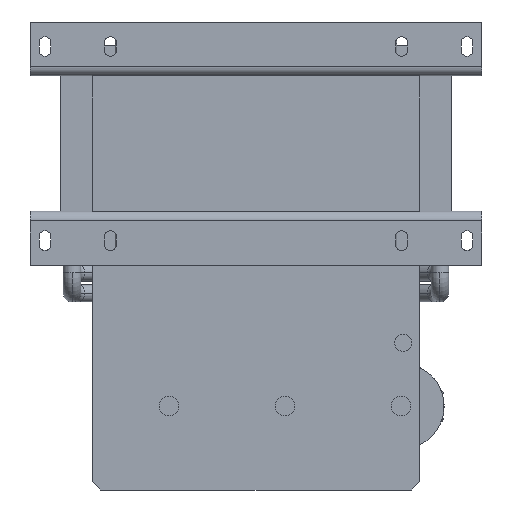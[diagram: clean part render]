
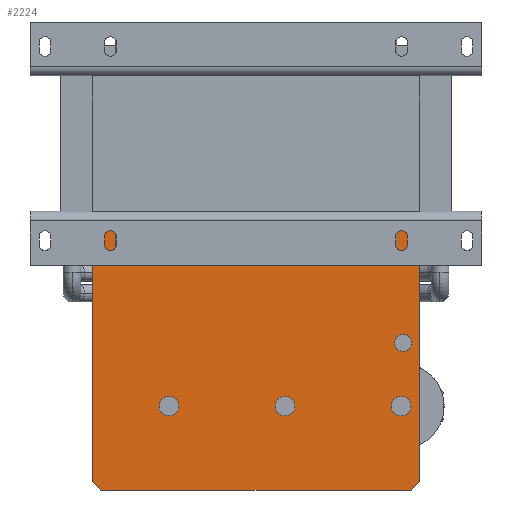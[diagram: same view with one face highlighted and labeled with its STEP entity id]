
A CAD part, front view. The second image highlights one B-rep face of the part: STEP entity #2224.
In plain terms, the highlighted planar face has unit normal (0, -1, 0).
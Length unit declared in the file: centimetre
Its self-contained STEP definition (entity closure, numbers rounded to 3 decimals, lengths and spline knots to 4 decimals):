
#108 = CIRCLE ( 'NONE', #6955, 1.05 ) ;
#172 = DIRECTION ( 'NONE',  ( 0., 0., -1. ) ) ;
#369 = DIRECTION ( 'NONE',  ( 0., -1., 0. ) ) ;
#402 = EDGE_CURVE ( 'NONE', #31054, #26813, #19166, .T. ) ;
#714 = LINE ( 'NONE', #12968, #14170 ) ;
#763 = VECTOR ( 'NONE', #19716, 100. ) ;
#889 = CARTESIAN_POINT ( 'NONE',  ( -10.65, 7., -32.115 ) ) ;
#1210 = EDGE_LOOP ( 'NONE', ( #4053, #38252 ) ) ;
#1747 = AXIS2_PLACEMENT_3D ( 'NONE', #31399, #10558, #25749 ) ;
#1827 = DIRECTION ( 'NONE',  ( 0., 0., -1. ) ) ;
#2125 = CARTESIAN_POINT ( 'NONE',  ( 17.75, 7., -33.315 ) ) ;
#2224 = ADVANCED_FACE ( 'NONE', ( #28778, #10465, #32050, #7907, #16301 ), #7540, .T. ) ;
#2688 = CARTESIAN_POINT ( 'NONE',  ( 19., 7., -42.365 ) ) ;
#2919 = VERTEX_POINT ( 'NONE', #20676 ) ;
#3076 = DIRECTION ( 'NONE',  ( 0., -1., 0. ) ) ;
#3578 = VERTEX_POINT ( 'NONE', #10658 ) ;
#4053 = ORIENTED_EDGE ( 'NONE', *, *, #402, .F. ) ;
#4626 = CARTESIAN_POINT ( 'NONE',  ( 0., 7., 0. ) ) ;
#4914 = EDGE_CURVE ( 'NONE', #33906, #10550, #17488, .T. ) ;
#5431 = ORIENTED_EDGE ( 'NONE', *, *, #9869, .F. ) ;
#5505 = AXIS2_PLACEMENT_3D ( 'NONE', #4626, #37381, #19426 ) ;
#6135 = VERTEX_POINT ( 'NONE', #32695 ) ;
#6153 = DIRECTION ( 'NONE',  ( 0., 0., 1. ) ) ;
#6944 = LINE ( 'NONE', #34034, #17547 ) ;
#6949 = AXIS2_PLACEMENT_3D ( 'NONE', #35109, #8398, #29252 ) ;
#6955 = AXIS2_PLACEMENT_3D ( 'NONE', #32304, #3076, #172 ) ;
#7523 = EDGE_CURVE ( 'NONE', #18238, #3578, #9794, .T. ) ;
#7540 = PLANE ( 'NONE',  #5505 ) ;
#7697 = CARTESIAN_POINT ( 'NONE',  ( 18., 7., -25.415 ) ) ;
#7705 = DIRECTION ( 'NONE',  ( 0., 0., 1. ) ) ;
#7833 = CARTESIAN_POINT ( 'NONE',  ( -20., 7., -41.365 ) ) ;
#7907 = FACE_BOUND ( 'NONE', #31278, .T. ) ;
#8398 = DIRECTION ( 'NONE',  ( 0., -1., 0. ) ) ;
#9075 = DIRECTION ( 'NONE',  ( 0., -1., 0. ) ) ;
#9393 = CIRCLE ( 'NONE', #32414, 1.2 ) ;
#9794 = CIRCLE ( 'NONE', #16002, 1.2 ) ;
#9869 = EDGE_CURVE ( 'NONE', #3578, #18238, #14826, .T. ) ;
#9938 = EDGE_CURVE ( 'NONE', #10440, #30016, #714, .T. ) ;
#10440 = VERTEX_POINT ( 'NONE', #25919 ) ;
#10465 = FACE_OUTER_BOUND ( 'NONE', #36228, .T. ) ;
#10550 = VERTEX_POINT ( 'NONE', #20841 ) ;
#10558 = DIRECTION ( 'NONE',  ( 0., -1., 0. ) ) ;
#10658 = CARTESIAN_POINT ( 'NONE',  ( -10.65, 7., -33.315 ) ) ;
#11048 = ORIENTED_EDGE ( 'NONE', *, *, #35686, .T. ) ;
#11736 = EDGE_CURVE ( 'NONE', #22810, #35371, #34879, .T. ) ;
#12237 = DIRECTION ( 'NONE',  ( 0., 0., 1. ) ) ;
#12588 = DIRECTION ( 'NONE',  ( -1., 0., 0. ) ) ;
#12685 = EDGE_LOOP ( 'NONE', ( #18783, #14411 ) ) ;
#12782 = CIRCLE ( 'NONE', #31457, 1.05 ) ;
#12842 = ORIENTED_EDGE ( 'NONE', *, *, #29391, .T. ) ;
#12968 = CARTESIAN_POINT ( 'NONE',  ( 20., 7., -9.865 ) ) ;
#13098 = EDGE_CURVE ( 'NONE', #26813, #31054, #33718, .T. ) ;
#13582 = AXIS2_PLACEMENT_3D ( 'NONE', #889, #21959, #36206 ) ;
#14170 = VECTOR ( 'NONE', #12588, 100. ) ;
#14411 = ORIENTED_EDGE ( 'NONE', *, *, #11736, .F. ) ;
#14621 = DIRECTION ( 'NONE',  ( 0.707, 0., 0.707 ) ) ;
#14826 = CIRCLE ( 'NONE', #13582, 1.2 ) ;
#15164 = DIRECTION ( 'NONE',  ( 1., 0., 0. ) ) ;
#15209 = EDGE_CURVE ( 'NONE', #20799, #33906, #34552, .T. ) ;
#15397 = CARTESIAN_POINT ( 'NONE',  ( -20., 7., -9.865 ) ) ;
#15686 = CARTESIAN_POINT ( 'NONE',  ( 3.55, 7., -30.915 ) ) ;
#15834 = VERTEX_POINT ( 'NONE', #7697 ) ;
#16002 = AXIS2_PLACEMENT_3D ( 'NONE', #36052, #369, #12237 ) ;
#16301 = FACE_BOUND ( 'NONE', #1210, .T. ) ;
#16622 = DIRECTION ( 'NONE',  ( 0., -1., 0. ) ) ;
#17488 = LINE ( 'NONE', #2688, #31250 ) ;
#17547 = VECTOR ( 'NONE', #21950, 100. ) ;
#17581 = LINE ( 'NONE', #20720, #20271 ) ;
#18238 = VERTEX_POINT ( 'NONE', #26691 ) ;
#18783 = ORIENTED_EDGE ( 'NONE', *, *, #25982, .F. ) ;
#19049 = ORIENTED_EDGE ( 'NONE', *, *, #27358, .F. ) ;
#19166 = CIRCLE ( 'NONE', #1747, 1.2 ) ;
#19426 = DIRECTION ( 'NONE',  ( 0., 0., -1. ) ) ;
#19716 = DIRECTION ( 'NONE',  ( 0.707, 0., -0.707 ) ) ;
#20161 = DIRECTION ( 'NONE',  ( 0., -1., 0. ) ) ;
#20271 = VECTOR ( 'NONE', #32589, 100. ) ;
#20676 = CARTESIAN_POINT ( 'NONE',  ( 20., 7., -41.365 ) ) ;
#20720 = CARTESIAN_POINT ( 'NONE',  ( -20., 7., -8.865 ) ) ;
#20799 = VERTEX_POINT ( 'NONE', #25483 ) ;
#20841 = CARTESIAN_POINT ( 'NONE',  ( 19., 7., -42.365 ) ) ;
#21650 = ORIENTED_EDGE ( 'NONE', *, *, #25525, .F. ) ;
#21950 = DIRECTION ( 'NONE',  ( 0., 0., -1. ) ) ;
#21959 = DIRECTION ( 'NONE',  ( 0., -1., 0. ) ) ;
#22561 = ORIENTED_EDGE ( 'NONE', *, *, #9938, .T. ) ;
#22800 = ORIENTED_EDGE ( 'NONE', *, *, #7523, .F. ) ;
#22810 = VERTEX_POINT ( 'NONE', #27152 ) ;
#23993 = LINE ( 'NONE', #36301, #36804 ) ;
#25473 = CARTESIAN_POINT ( 'NONE',  ( -19., 7., -42.365 ) ) ;
#25483 = CARTESIAN_POINT ( 'NONE',  ( -20., 7., -41.365 ) ) ;
#25525 = EDGE_CURVE ( 'NONE', #6135, #15834, #108, .T. ) ;
#25749 = DIRECTION ( 'NONE',  ( 0., 0., 1. ) ) ;
#25919 = CARTESIAN_POINT ( 'NONE',  ( 20., 7., -9.865 ) ) ;
#25982 = EDGE_CURVE ( 'NONE', #35371, #22810, #9393, .T. ) ;
#26341 = CARTESIAN_POINT ( 'NONE',  ( 17.75, 7., -30.915 ) ) ;
#26691 = CARTESIAN_POINT ( 'NONE',  ( -10.65, 7., -30.915 ) ) ;
#26813 = VERTEX_POINT ( 'NONE', #2125 ) ;
#26815 = CARTESIAN_POINT ( 'NONE',  ( 3.55, 7., -32.115 ) ) ;
#26910 = ORIENTED_EDGE ( 'NONE', *, *, #4914, .T. ) ;
#27152 = CARTESIAN_POINT ( 'NONE',  ( 3.55, 7., -33.315 ) ) ;
#27358 = EDGE_CURVE ( 'NONE', #10440, #2919, #6944, .T. ) ;
#28653 = AXIS2_PLACEMENT_3D ( 'NONE', #37729, #20161, #7705 ) ;
#28778 = FACE_BOUND ( 'NONE', #31342, .T. ) ;
#29210 = EDGE_CURVE ( 'NONE', #15834, #6135, #12782, .T. ) ;
#29252 = DIRECTION ( 'NONE',  ( 0., 0., 1. ) ) ;
#29391 = EDGE_CURVE ( 'NONE', #30016, #20799, #17581, .T. ) ;
#30016 = VERTEX_POINT ( 'NONE', #15397 ) ;
#31054 = VERTEX_POINT ( 'NONE', #26341 ) ;
#31250 = VECTOR ( 'NONE', #15164, 100. ) ;
#31278 = EDGE_LOOP ( 'NONE', ( #22800, #5431 ) ) ;
#31342 = EDGE_LOOP ( 'NONE', ( #33830, #21650 ) ) ;
#31399 = CARTESIAN_POINT ( 'NONE',  ( 17.75, 7., -32.115 ) ) ;
#31457 = AXIS2_PLACEMENT_3D ( 'NONE', #37704, #16622, #1827 ) ;
#32050 = FACE_BOUND ( 'NONE', #12685, .T. ) ;
#32304 = CARTESIAN_POINT ( 'NONE',  ( 18., 7., -24.365 ) ) ;
#32414 = AXIS2_PLACEMENT_3D ( 'NONE', #26815, #9075, #6153 ) ;
#32589 = DIRECTION ( 'NONE',  ( 0., 0., -1. ) ) ;
#32695 = CARTESIAN_POINT ( 'NONE',  ( 18., 7., -23.315 ) ) ;
#33718 = CIRCLE ( 'NONE', #6949, 1.2 ) ;
#33830 = ORIENTED_EDGE ( 'NONE', *, *, #29210, .F. ) ;
#33906 = VERTEX_POINT ( 'NONE', #25473 ) ;
#34034 = CARTESIAN_POINT ( 'NONE',  ( 20., 7., -8.865 ) ) ;
#34552 = LINE ( 'NONE', #7833, #763 ) ;
#34801 = ORIENTED_EDGE ( 'NONE', *, *, #15209, .T. ) ;
#34879 = CIRCLE ( 'NONE', #28653, 1.2 ) ;
#35109 = CARTESIAN_POINT ( 'NONE',  ( 17.75, 7., -32.115 ) ) ;
#35371 = VERTEX_POINT ( 'NONE', #15686 ) ;
#35686 = EDGE_CURVE ( 'NONE', #10550, #2919, #23993, .T. ) ;
#36052 = CARTESIAN_POINT ( 'NONE',  ( -10.65, 7., -32.115 ) ) ;
#36206 = DIRECTION ( 'NONE',  ( 0., 0., 1. ) ) ;
#36228 = EDGE_LOOP ( 'NONE', ( #34801, #26910, #11048, #19049, #22561, #12842 ) ) ;
#36301 = CARTESIAN_POINT ( 'NONE',  ( 19., 7., -42.365 ) ) ;
#36804 = VECTOR ( 'NONE', #14621, 100. ) ;
#37381 = DIRECTION ( 'NONE',  ( 0., -1., 0. ) ) ;
#37704 = CARTESIAN_POINT ( 'NONE',  ( 18., 7., -24.365 ) ) ;
#37729 = CARTESIAN_POINT ( 'NONE',  ( 3.55, 7., -32.115 ) ) ;
#38252 = ORIENTED_EDGE ( 'NONE', *, *, #13098, .F. ) ;
